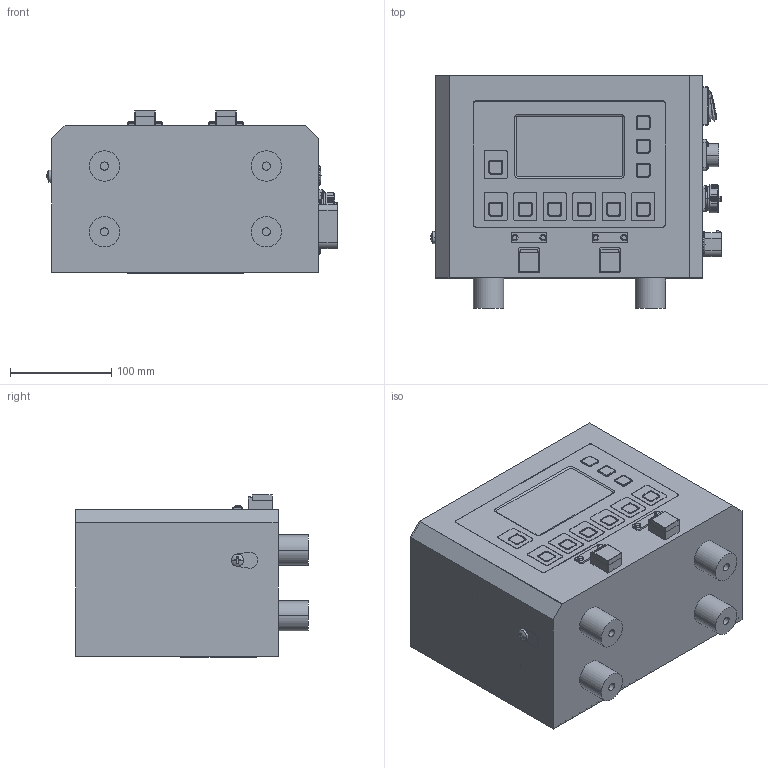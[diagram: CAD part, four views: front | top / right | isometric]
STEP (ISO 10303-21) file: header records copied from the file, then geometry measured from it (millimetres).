
FILE_DESCRIPTION (( 'STEP AP203' ), '1' );
FILE_NAME ('MEM40 WZ.STEP', '2024-03-11T06:55:47', ( 'gk' ), ( '' ), 'SwSTEP 2.0', 'SolidWorks 2018', '' );
FILE_SCHEMA (( 'CONFIG_CONTROL_DESIGN' ));
Length unit declared in the file: millimetre
Products named in the file (1): MEM40  WZ
Bounding box: 287.09 x 230 x 160.7 mm (x, y, z)
Volume: 7108922.2 mm3; surface area: 551790.4 mm2
Topology: 36 solids, 50 shells, 2175 faces, 5202 edges, 3252 vertices
Faces by surface type: cylinder 965, plane 882, torus 224, sphere 40, bspline 38, cone 26
Entity records: 66539 total; most frequent: CARTESIAN_POINT 14323, DIRECTION 11648, ORIENTED_EDGE 10328, EDGE_CURVE 5164, AXIS2_PLACEMENT_3D 4477, VERTEX_POINT 3252, LINE 2694, VECTOR 2694
